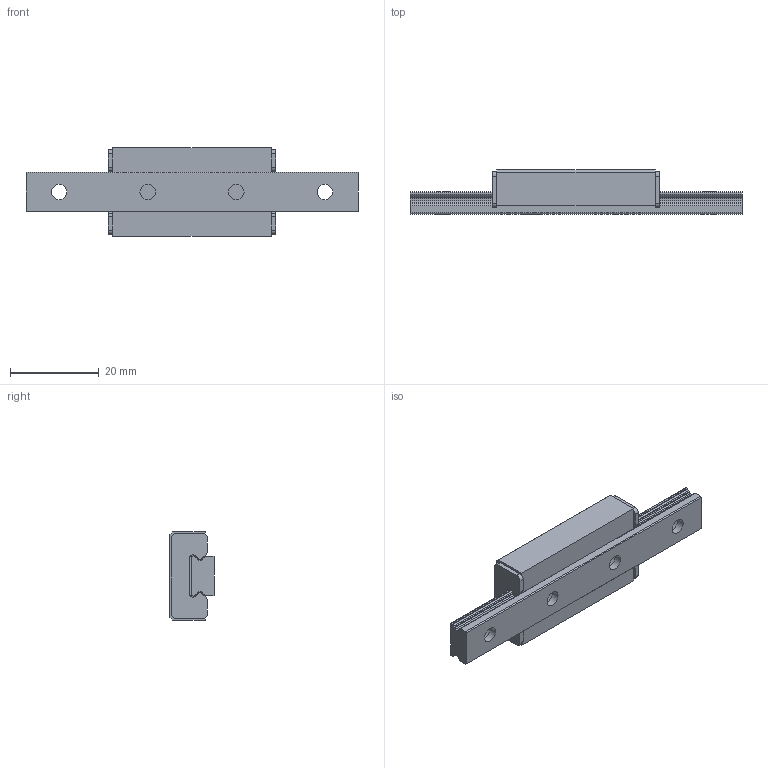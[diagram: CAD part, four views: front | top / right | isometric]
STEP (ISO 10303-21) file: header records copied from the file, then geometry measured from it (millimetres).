
FILE_DESCRIPTION(/* description */ ('STEP AP203'),/* implementation_level */ '2;1');
FILE_NAME(/* name */ 'EPF9M21-75LM_G7-5_0_18-6_1',/* time_stamp */ '2024-05-21T04:12:45+02:00',/* author */ ('License CC BY-ND 4.0'),/* organization */ ('CADENAS'),/* preprocessor_version */ 'ST-DEVELOPER v19.3',/* originating_system */ 'PARTsolutions',/* authorisation */ ' ');
FILE_SCHEMA (('CONFIG_CONTROL_DESIGN'));
Length unit declared in the file: millimetre
Products named in the file (3): EPF9M21-75LM_G7-5_0_18-6_1; EPF9 M757.5 R Track; Slider--EPF9 M-7.5-11
Assembly tree (2 placements, depth 2):
  EPF9M21-75LM_G7-5_0_18-6_1
    EPF9 M757.5 R Track
    Slider--EPF9 M-7.5-11
Bounding box: 75 x 10 x 20 mm (x, y, z)
Volume: 7542.3 mm3; surface area: 5308.3 mm2
Topology: 2 solids, 2 shells, 149 faces, 413 edges, 272 vertices
Faces by surface type: plane 78, cylinder 61, cone 10
Full cylindrical faces by diameter (mm): 2.459 x4, 3.5 x4, 6 x4, 7 x1
Entity records: 4667 total; most frequent: DIRECTION 814, CARTESIAN_POINT 794, ORIENTED_EDGE 756, EDGE_CURVE 378, AXIS2_PLACEMENT_3D 284, VERTEX_POINT 264, LINE 246, VECTOR 246
